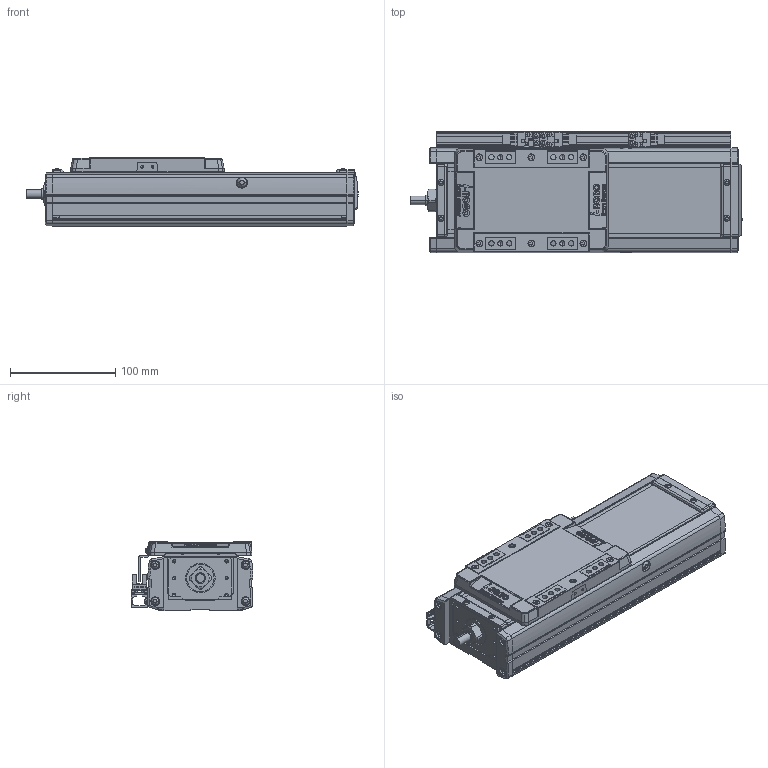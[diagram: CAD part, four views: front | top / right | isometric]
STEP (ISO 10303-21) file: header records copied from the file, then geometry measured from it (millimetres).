
FILE_DESCRIPTION(('STEP AP214'),'1');
FILE_NAME('Z:/Web/3D/SAN100/SAN100 양산용 (STEP)/SAN100ㅁㅁ-100+3SL.stp','2013-04-24T06:04:18',(' '),(' '),'Spatial InterOp 3D',' ',' ');
FILE_SCHEMA(('automotive_design'));
Length unit declared in the file: millimetre
Products named in the file (50): SGD-SAN100; M3.0 x 6.0; SRL-16x17-380L; EE-SX674; SBK-SX674-352; 스크루 : Round - M3.0 x 6.0; SUS COVER; SFX-SAN100; RRCV-SAN100; 스크루 : Round - M4.0 x 10.0; FRBL-SAN100; SLBL-SAN100; SLCV-SAN100; 스크루 : Countersunk - M3.0 x 6.0; BASE; 스크루 : Round - M5.0 x 6.0; 너트 : Square - M10.0 x 220.7419; RR1500-000L; FRCV-SAN100
Bounding box: 316 x 116 x 66 mm (x, y, z)
Volume: 981614.5 mm3; surface area: 309721.2 mm2
Topology: 50 solids, 51 shells, 2353 faces, 6120 edges, 3965 vertices
Faces by surface type: plane 1294, cylinder 763, cone 198, sphere 60, torus 26, bspline 12
Entity records: 92613 total; most frequent: CARTESIAN_POINT 13738, DIRECTION 12835, ORIENTED_EDGE 12100, EDGE_CURVE 6050, AXIS2_PLACEMENT_3D 4499, VERTEX_POINT 3965, LINE 3837, VECTOR 3837
